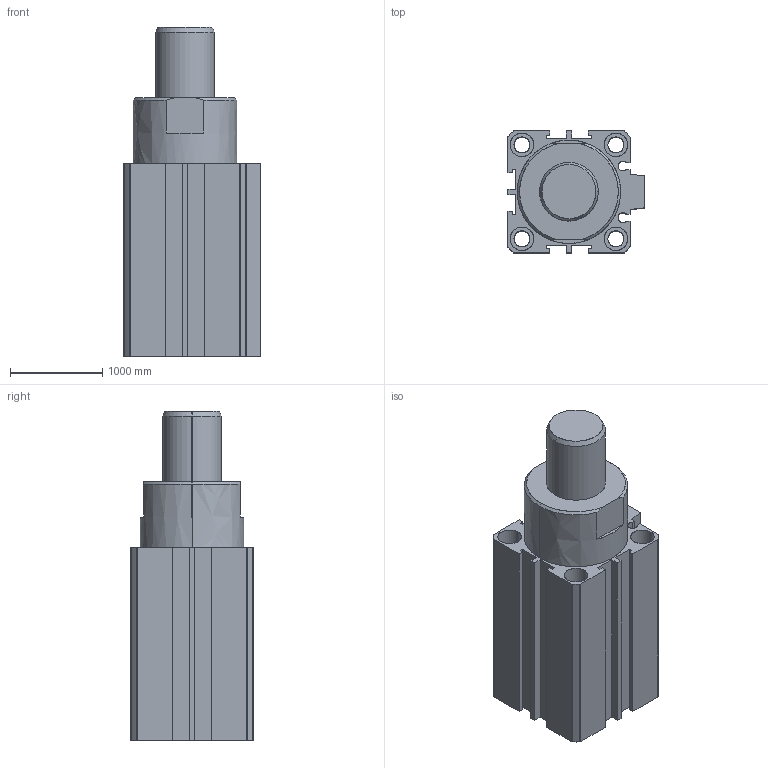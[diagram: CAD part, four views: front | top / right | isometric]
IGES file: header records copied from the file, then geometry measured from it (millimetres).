
Start section: SolidWorks IGES file using analytic representation for surfaces
Global section: file name: C:\Documents and Settings\Standard\Bureau\NM pieces 3d\ELO 40 30 tige sortie.IGS; native system: SolidWorks 2007; preprocessor: SolidWorks 2007; author: Standard; date: 080328.105721; units: inch
Bounding box: 1473.2 x 1320.8 x 3561.08 mm (x, y, z)
Surface area: 34448837.8 mm2 (no closed solid volume)
Topology: 0 solids, 0 shells, 538 faces, 13389 edges, 13427 vertices
Faces by surface type: bspline 483, revolution 55
